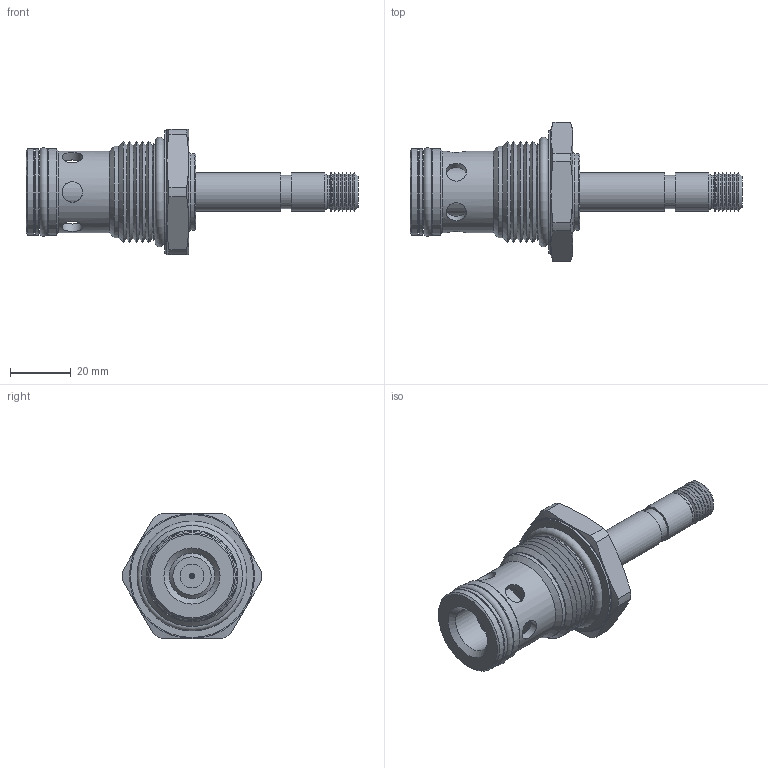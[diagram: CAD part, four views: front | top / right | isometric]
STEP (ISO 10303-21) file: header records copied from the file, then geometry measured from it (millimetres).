
FILE_DESCRIPTION(/* description */ ('HSJ-S2A-00'),/* implementation_level */ '2;1');
FILE_NAME(/* name */ 'P:\EARS\EAR16xx\EAR1683 - catalog pages changes\Group1_Distribution 11_22_22\RTeck Agency_Tom\_step files\HSJS2A00.stp',/* time_stamp */ '2023-01-03T13:17:07-06:00',/* author */ ('Michael'),/* organization */ (''),/* preprocessor_version */ 'ST-DEVELOPER v17.2',/* originating_system */ 'Autodesk Inventor 2019',/* authorisation */ '');
FILE_SCHEMA (('AUTOMOTIVE_DESIGN { 1 0 10303 214 3 1 1 }'));
Length unit declared in the file: inch
Products named in the file (1): 87200003
Bounding box: 109.61 x 46.01 x 41.27 mm (x, y, z)
Volume: 46221.5 mm3; surface area: 15580.5 mm2
Topology: 4 solids, 4 shells, 125 faces, 292 edges, 181 vertices
Faces by surface type: cone 48, cylinder 40, plane 28, torus 9
Full cylindrical faces by diameter (mm): 0.813 x1, 6.756 x6, 7.899 x2, 8.382 x1, 10.998 x1, 11.049 x1, 12.586 x1, 12.675 x1, 14.986 x1, 16.002 x1, 18.796 x1, 19.094 x1, 24.054 x1, 24.105 x1, 25.4 x1, 26.924 x1, 28.423 x1, 28.524 x2, 30.15 x1, 30.353 x1, 40.615 x1
Entity records: 4361 total; most frequent: CARTESIAN_POINT 1300, DIRECTION 626, ORIENTED_EDGE 584, EDGE_CURVE 292, AXIS2_PLACEMENT_3D 274, VERTEX_POINT 181, EDGE_LOOP 150, CIRCLE 148
